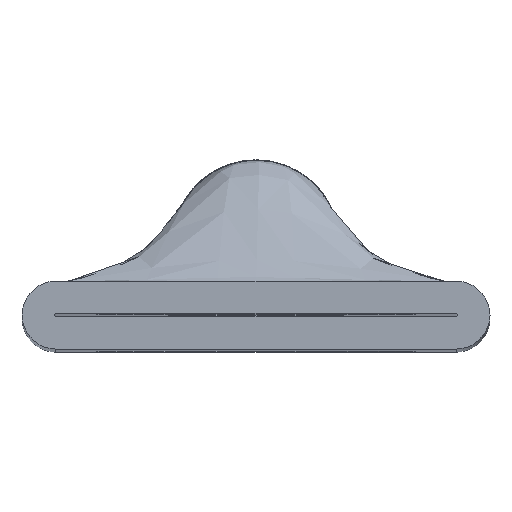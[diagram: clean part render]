
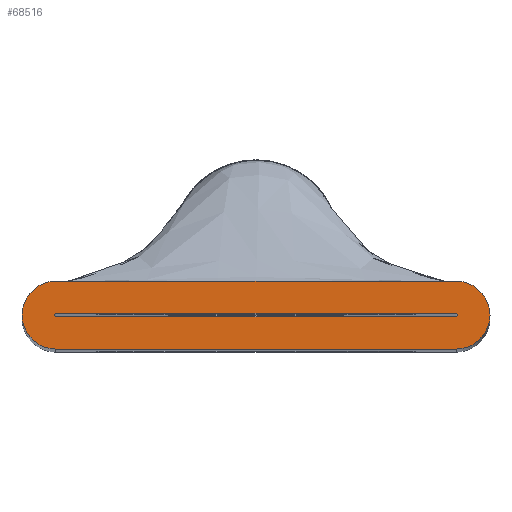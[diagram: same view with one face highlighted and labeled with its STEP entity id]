
A CAD part, top view. The second image highlights one B-rep face of the part: STEP entity #68516.
In plain terms, the highlighted planar face has unit normal (0, 0, 1).
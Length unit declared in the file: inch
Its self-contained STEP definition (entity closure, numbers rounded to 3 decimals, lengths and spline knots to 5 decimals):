
#64714=CARTESIAN_POINT('',(-0.353,-0.073,4.404));
#64715=VERTEX_POINT('',#64714);
#64722=CARTESIAN_POINT('',(0.353,-0.073,4.404));
#64723=VERTEX_POINT('',#64722);
#64724=CARTESIAN_POINT('',(-0.353,-0.073,4.404));
#64725=DIRECTION('',(1.0,0.0,0.0));
#64726=VECTOR('',#64725,0.706);
#64727=LINE('',#64724,#64726);
#64728=EDGE_CURVE('',#64715,#64723,#64727,.T.);
#67806=CARTESIAN_POINT('',(-0.353,-0.13,4.404));
#67807=VERTEX_POINT('',#67806);
#67814=CARTESIAN_POINT('',(-0.353,-0.136,4.404));
#67815=VERTEX_POINT('',#67814);
#67816=CARTESIAN_POINT('',(-0.353,-0.133,4.404));
#67817=DIRECTION('',(0.0,0.0,-1.0));
#67818=DIRECTION('',(0.0,1.0,0.0));
#67819=AXIS2_PLACEMENT_3D('',#67816,#67817,#67818);
#67820=CIRCLE('',#67819,0.003);
#67821=EDGE_CURVE('',#67815,#67807,#67820,.T.);
#67839=CARTESIAN_POINT('',(0.353,-0.136,4.404));
#67840=VERTEX_POINT('',#67839);
#67841=CARTESIAN_POINT('',(0.353,-0.136,4.404));
#67842=DIRECTION('',(-1.0,0.0,0.0));
#67843=VECTOR('',#67842,0.706);
#67844=LINE('',#67841,#67843);
#67845=EDGE_CURVE('',#67840,#67815,#67844,.T.);
#67870=CARTESIAN_POINT('',(0.353,-0.13,4.404));
#67871=VERTEX_POINT('',#67870);
#67872=CARTESIAN_POINT('',(0.353,-0.133,4.404));
#67873=DIRECTION('',(0.0,0.0,-1.0));
#67874=DIRECTION('',(0.0,-1.0,0.0));
#67875=AXIS2_PLACEMENT_3D('',#67872,#67873,#67874);
#67876=CIRCLE('',#67875,0.003);
#67877=EDGE_CURVE('',#67871,#67840,#67876,.T.);
#67895=CARTESIAN_POINT('',(-0.353,-0.13,4.404));
#67896=DIRECTION('',(1.0,0.0,0.0));
#67897=VECTOR('',#67896,0.706);
#67898=LINE('',#67895,#67897);
#67899=EDGE_CURVE('',#67807,#67871,#67898,.T.);
#68430=CARTESIAN_POINT('',(-0.353,-0.193,4.404));
#68431=VERTEX_POINT('',#68430);
#68438=CARTESIAN_POINT('',(-0.353,-0.133,4.404));
#68439=DIRECTION('',(0.0,0.0,-1.0));
#68440=DIRECTION('',(0.0,-1.0,0.0));
#68441=AXIS2_PLACEMENT_3D('',#68438,#68439,#68440);
#68442=CIRCLE('',#68441,0.06);
#68443=EDGE_CURVE('',#68431,#64715,#68442,.T.);
#68456=CARTESIAN_POINT('',(0.353,-0.193,4.404));
#68457=VERTEX_POINT('',#68456);
#68464=CARTESIAN_POINT('',(0.353,-0.193,4.404));
#68465=DIRECTION('',(-1.0,0.0,0.0));
#68466=VECTOR('',#68465,0.706);
#68467=LINE('',#68464,#68466);
#68468=EDGE_CURVE('',#68457,#68431,#68467,.T.);
#68487=CARTESIAN_POINT('',(0.353,-0.133,4.404));
#68488=DIRECTION('',(0.0,0.0,-1.0));
#68489=DIRECTION('',(0.0,1.0,0.0));
#68490=AXIS2_PLACEMENT_3D('',#68487,#68488,#68489);
#68491=CIRCLE('',#68490,0.06);
#68492=EDGE_CURVE('',#64723,#68457,#68491,.T.);
#68499=CARTESIAN_POINT('',(0.0,-0.133,4.404));
#68500=DIRECTION('',(0.0,0.0,1.0));
#68501=DIRECTION('',(1.0,0.0,0.0));
#68502=AXIS2_PLACEMENT_3D('',#68499,#68500,#68501);
#68503=PLANE('',#68502);
#68504=ORIENTED_EDGE('',*,*,#64728,.F.);
#68505=ORIENTED_EDGE('',*,*,#68443,.F.);
#68506=ORIENTED_EDGE('',*,*,#68468,.F.);
#68507=ORIENTED_EDGE('',*,*,#68492,.F.);
#68508=EDGE_LOOP('',(#68504,#68505,#68506,#68507));
#68509=FACE_OUTER_BOUND('',#68508,.T.);
#68510=ORIENTED_EDGE('',*,*,#67821,.T.);
#68511=ORIENTED_EDGE('',*,*,#67899,.T.);
#68512=ORIENTED_EDGE('',*,*,#67877,.T.);
#68513=ORIENTED_EDGE('',*,*,#67845,.T.);
#68514=EDGE_LOOP('',(#68510,#68511,#68512,#68513));
#68515=FACE_BOUND('',#68514,.T.);
#68516=ADVANCED_FACE('',(#68509,#68515),#68503,.T.);
